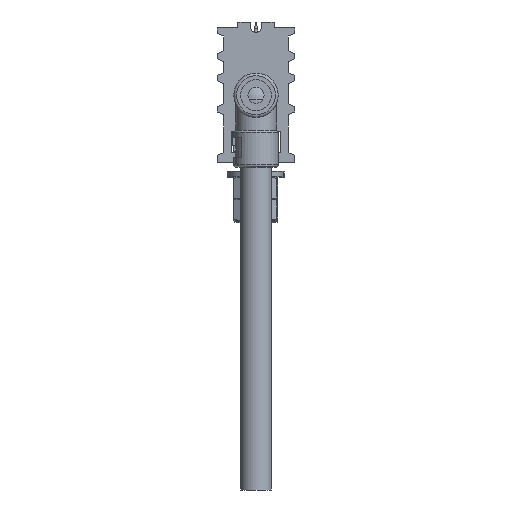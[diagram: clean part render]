
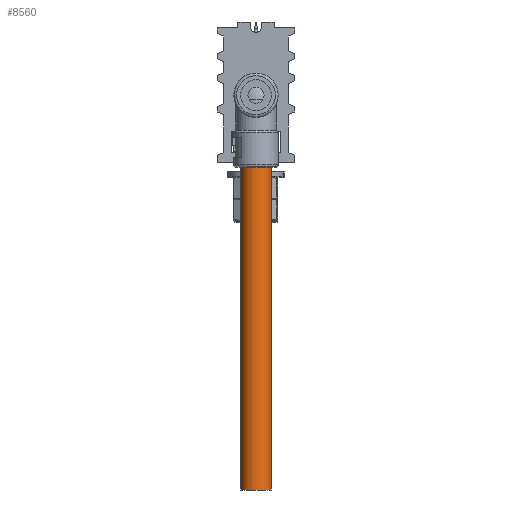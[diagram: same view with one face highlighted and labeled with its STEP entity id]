
A CAD part, left-side view. The second image highlights one B-rep face of the part: STEP entity #8560.
In plain terms, the highlighted cylindrical face has radius 5.75 mm (diameter 11.5 mm), a full revolution.
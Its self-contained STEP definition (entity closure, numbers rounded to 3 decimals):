
#8560=ADVANCED_FACE('', (#8570,#8580), #8590, .T.);
#24480=AXIS2_PLACEMENT_3D('Ax2Pl3d', #24490, #24500, #24510);
#24560=AXIS2_PLACEMENT_3D('Ax2Pl3d', #24570, #24580, #24590);
#24600=AXIS2_PLACEMENT_3D('Ax2Pl3d', #24610, #24620, #24630);
#24490=CARTESIAN_POINT('HicPkt', (79.045,-490.5,42.51));
#49070=CARTESIAN_POINT('', (79.045,-484.75,42.51));
#24570=CARTESIAN_POINT('HicPkt', (79.045,-490.5,-90.39));
#24610=CARTESIAN_POINT('HicPkt', (79.045,-490.5,-90.39))
;
#49090=CARTESIAN_POINT('', (79.045,-484.75,-90.39));
#50370=CIRCLE('Circle', #24480, 5.75);
#50390=CIRCLE('Circle', #24600, 5.75);
#8590=CYLINDRICAL_SURFACE('Zyl', #24560, 5.75);
#24500=DIRECTION('Axis', (0.,0.,1.));
#24510=DIRECTION('RefDirection', (1.,0.,-0.));
#24580=DIRECTION('Axis', (0.,0.,1.));
#24590=DIRECTION('RefDirection', (1.,0.,-0.));
#24620=DIRECTION('Axis', (0.,0.,-1.));
#24630=DIRECTION('RefDirection', (-1.,-0.,0.));
#77440=EDGE_CURVE('', #77450, #77450, #50370, .T.);
#77480=EDGE_CURVE('', #77490, #77490, #50390, .T.);
#89680=EDGE_LOOP('Edge_loop', (#89690));
#89700=EDGE_LOOP('Edge_loop', (#89710));
#8580=FACE_BOUND('', #89700, .T.);
#8570=FACE_OUTER_BOUND('Face_outer_bound', #89680, .T.);
#89690=ORIENTED_EDGE('', *, *, #77440, .F.);
#89710=ORIENTED_EDGE('', *, *, #77480, .F.);
#77450=VERTEX_POINT('', #49070);
#77490=VERTEX_POINT('', #49090);
